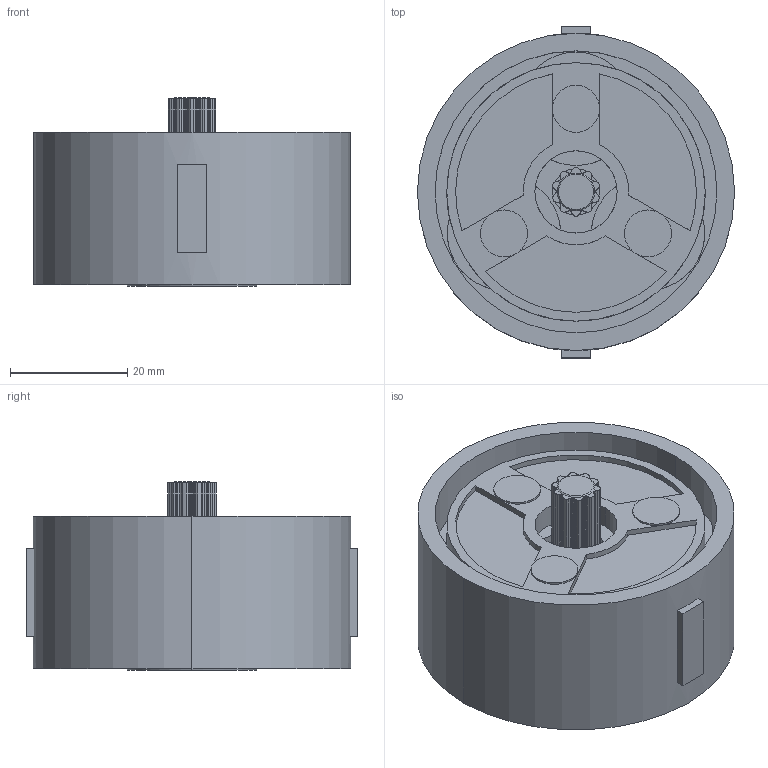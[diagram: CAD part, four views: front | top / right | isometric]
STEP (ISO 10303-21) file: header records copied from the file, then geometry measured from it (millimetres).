
FILE_DESCRIPTION (( 'STEP AP203' ), '1' );
FILE_NAME ('LGU54-5PLD.step', '2021-07-23T02:24:32', ( '' ), ( '' ), 'SwSTEP 2.0', 'SolidWorks 2021', '' );
FILE_SCHEMA (( 'CONFIG_CONTROL_DESIGN' ));
Length unit declared in the file: millimetre
Products named in the file (1): LGU54-5PLD
Bounding box: 54 x 56.5 x 32.1 mm (x, y, z)
Volume: 44824.1 mm3; surface area: 18303.3 mm2
Topology: 1 solids, 1 shells, 341 faces, 940 edges, 612 vertices
Faces by surface type: cylinder 260, plane 77, cone 4
Entity records: 11271 total; most frequent: DIRECTION 2220, CARTESIAN_POINT 1912, ORIENTED_EDGE 1880, AXIS2_PLACEMENT_3D 944, EDGE_CURVE 940, VERTEX_POINT 612, CIRCLE 602, EDGE_LOOP 364
